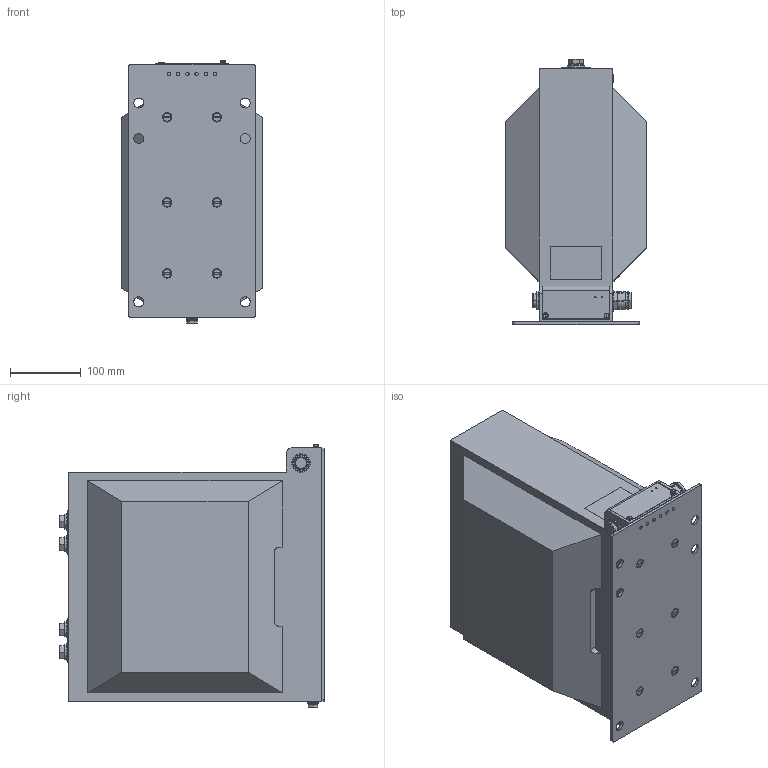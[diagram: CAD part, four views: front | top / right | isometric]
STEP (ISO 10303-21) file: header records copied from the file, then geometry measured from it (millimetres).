
FILE_DESCRIPTION (( 'STEP AP203' ), '1' );
FILE_NAME ('CTS_38_S_1250A_P2P1.STEP', '2014-08-21T06:34:43', ( 'Petr' ), ( 'Hewlett-Packard Company' ), 'SwSTEP 2.0', 'SolidWorks 2014', '' );
FILE_SCHEMA (( 'CONFIG_CONTROL_DESIGN' ));
Length unit declared in the file: millimetre
Products named in the file (1): CTS_38_S_1250A_P2P1
Bounding box: 200 x 374.1 x 370.5 mm (x, y, z)
Volume: 18169704 mm3; surface area: 531509.6 mm2
Topology: 1 solids, 7 shells, 897 faces, 2215 edges, 1367 vertices
Faces by surface type: plane 394, cylinder 323, cone 72, torus 49, bspline 38, sphere 21
Entity records: 32924 total; most frequent: CARTESIAN_POINT 11648, DIRECTION 4520, ORIENTED_EDGE 4358, EDGE_CURVE 2179, AXIS2_PLACEMENT_3D 1706, VERTEX_POINT 1359, LINE 1108, VECTOR 1108
